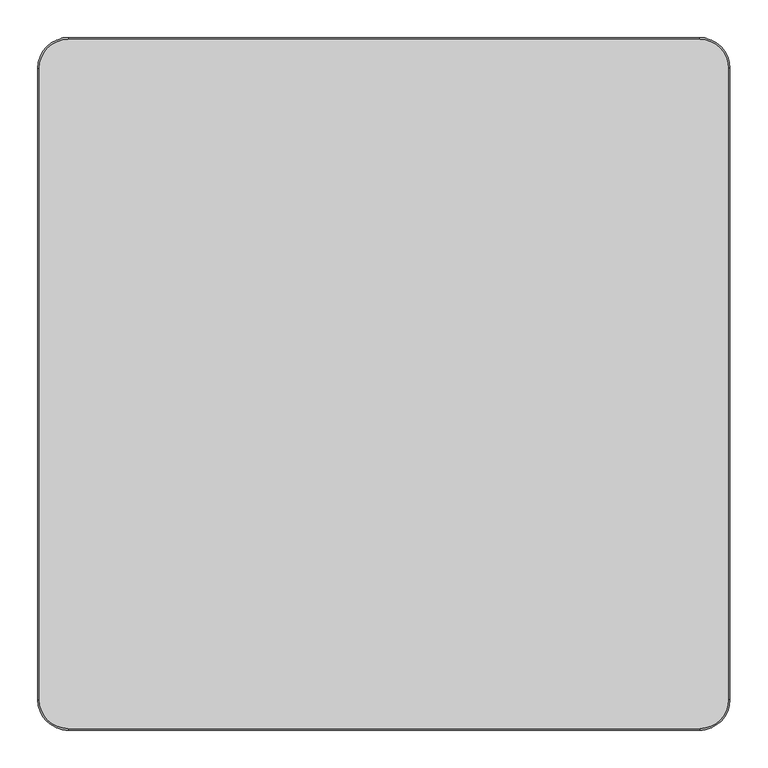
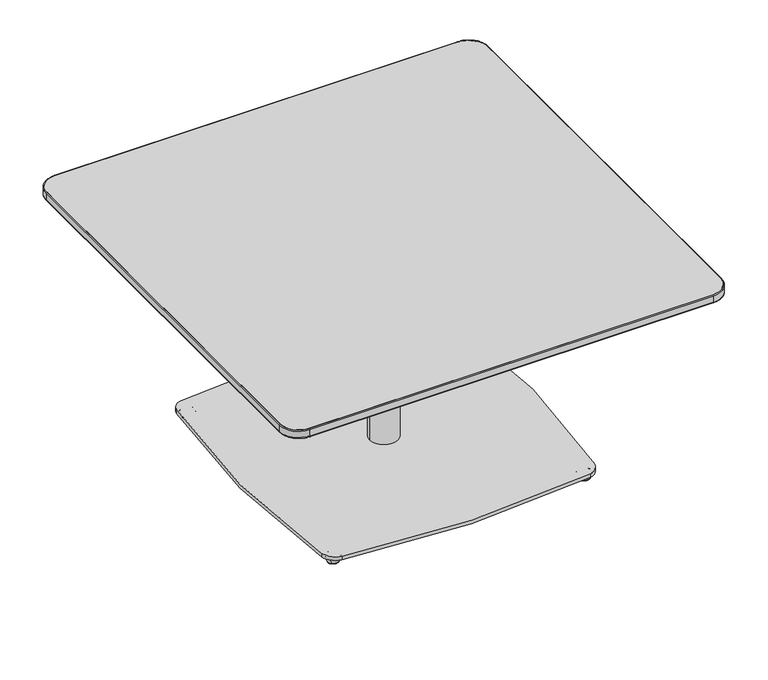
"""IFC4 building model written with IfcOpenShell, lengths in millimetres: furniture geometry, Coalesse_AM_Table_Occasional_Montara650Table_Square : 36D x 36W."""

from ifc_helpers import new_model, si_unit, point, frame, frame_2d, origin, place, context, project, spatial, polyline, circle_curve, ellipse_curve, trimmed, segment, composite_curve, outline, extrude, source, transform, mapped, element, save
from ifc_brep_helpers import plane_surface, cylinder_surface, revolved_surface, spline_surface, advanced_brep


def furniture_6edd4ddf(model_context):
    return source(origin(), model_context, "Body", "SolidModel", [
        advanced_brep(
        [(252.2843813, 244.9990703, 0.0), (266.9696661, 259.6843552, 0.0), (259.6270237, 252.3417127, 0.0), (251.7378791, 244.4525682, 0.5718943), (267.5161683, 260.2308573, 0.5718943), (249.43878, 242.1534691, 11.2068005), (269.8152674, 262.5299564, 11.2068005), (249.8538008, 242.5684899, 11.9999882), (269.4002466, 262.1149356, 11.9999882), (259.6270237, 252.3417127, 11.9999882)],
        [
            (0, 1, circle_curve(frame((259.6270237, 252.3417127, 0.0), z_axis=(0.0, 0.0, -1.0), x_axis=(0.7071067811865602, 0.7071067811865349, 0.0)), 10.3840645)),
            (1, 2),
            (2, 0),
            (1, 0, circle_curve(frame((259.6270237, 252.3417127, 0.0), z_axis=(0.0, 0.0, -1.0), x_axis=(0.7071067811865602, 0.7071067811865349, 0.0)), 10.3840645)),
            (3, 4, circle_curve(frame((259.6270237, 252.3417127, 0.5718943), z_axis=(0.0, 0.0, -1.0), x_axis=(0.7071067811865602, 0.7071067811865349, 0.0)), 11.1569353)),
            (4, 1, circle_curve(frame((266.9696661, 259.6843552, 0.8081846), z_axis=(-0.7071067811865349, 0.7071067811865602, 0.0), x_axis=(0.7071067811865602, 0.7071067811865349, 0.0)), 0.8081846)),
            (0, 3, circle_curve(frame((252.2843813, 244.9990703, 0.8081846), z_axis=(-0.7071067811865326, 0.7071067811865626, 0.0), x_axis=(-0.7071067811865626, -0.7071067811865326, 0.0)), 0.8081846)),
            (4, 3, circle_curve(frame((259.6270237, 252.3417127, 0.5718943), z_axis=(0.0, 0.0, -1.0), x_axis=(0.7071067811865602, 0.7071067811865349, 0.0)), 11.1569353)),
            (5, 6, circle_curve(frame((259.6270237, 252.3417127, 11.2068005), z_axis=(0.0, 0.0, -1.0), x_axis=(0.7071067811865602, 0.7071067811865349, 0.0)), 14.4083524)),
            (6, 4),
            (3, 5),
            (6, 5, circle_curve(frame((259.6270237, 252.3417127, 11.2068005), z_axis=(0.0, 0.0, -1.0), x_axis=(0.7071067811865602, 0.7071067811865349, 0.0)), 14.4083524)),
            (7, 8, circle_curve(frame((259.6270237, 252.3417127, 11.9999882), z_axis=(0.0, 0.0, -1.0), x_axis=(0.7071067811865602, 0.7071067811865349, 0.0)), 13.8214243)),
            (8, 6, circle_curve(frame((269.4002466, 262.1149356, 11.3862424), z_axis=(-0.7071067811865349, 0.7071067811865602, 0.0), x_axis=(0.7071067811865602, 0.7071067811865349, 0.0)), 0.6137458)),
            (5, 7, circle_curve(frame((249.8538008, 242.5684899, 11.3862424), z_axis=(-0.7071067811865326, 0.7071067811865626, 0.0), x_axis=(-0.7071067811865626, -0.7071067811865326, 0.0)), 0.6137458)),
            (8, 7, circle_curve(frame((259.6270237, 252.3417127, 11.9999882), z_axis=(0.0, 0.0, -1.0), x_axis=(0.7071067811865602, 0.7071067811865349, 0.0)), 13.8214243)),
            (9, 8),
            (7, 9),
        ],
        [
            plane_surface(frame((259.6270237, 252.3417127, 0.0), z_axis=(0.0, 0.0, -1.0000000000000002), x_axis=(0.7071067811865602, 0.7071067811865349, 0.0))),
            revolved_surface(trimmed(ellipse_curve(frame((266.9696661, 259.6843552, 0.8081846), z_axis=(0.7071067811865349, -0.7071067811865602, 0.0), x_axis=(0.7071067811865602, 0.7071067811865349, 0.0)), 0.8081846, 0.8081846), [point((266.9696661, 259.6843552, 0.0))], [point((267.5161683, 260.2308573, 0.5718943))], True, "CARTESIAN"), (259.6270237, 252.3417127, 12.2086845), (0.0, 0.0, 1.0)),
            revolved_surface(polyline([(267.5161683, 260.2308573, 0.5718943), (269.8152674, 262.5299564, 11.2068005)]), (259.6270237, 252.3417127, 12.2086845), (0.0, 0.0, 1.0)),
            revolved_surface(trimmed(ellipse_curve(frame((269.4002466, 262.1149356, 11.3862424), z_axis=(0.7071067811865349, -0.7071067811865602, 0.0), x_axis=(0.7071067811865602, 0.7071067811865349, 0.0)), 0.6137458, 0.6137458), [point((269.8152674, 262.5299564, 11.2068005))], [point((269.4002466, 262.1149356, 11.9999882))], True, "CARTESIAN"), (259.6270237, 252.3417127, 12.2086845), (0.0, 0.0, 1.0)),
            plane_surface(frame((259.6270237, 252.3417127, 11.9999882), z_axis=(0.0, 0.0, 1.0000000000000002), x_axis=(0.7071067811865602, 0.7071067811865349, 0.0))),
        ],
        [
            (0, [[1, 2, 3]]),
            (0, [[4, -3, -2]]),
            (1, [[5, 6, -1, 7]]),
            (1, [[8, -7, -4, -6]]),
            (2, [[9, 10, -5, 11]]),
            (2, [[12, -11, -8, -10]]),
            (3, [[13, 14, -9, 15]]),
            (3, [[16, -15, -12, -14]]),
            (4, [[17, -13, 18]]),
            (4, [[-18, -16, -17]]),
        ],
    ),
        advanced_brep(
        [(259.6270237, -268.2167127, 0.0), (266.9696661, -275.5593552, 0.0), (252.2843813, -260.8740703, 0.0), (267.5161683, -276.1058573, 0.5718943), (251.7378791, -260.3275682, 0.5718943), (269.8152674, -278.4049564, 11.2068005), (249.43878, -258.0284691, 11.2068005), (269.4002466, -277.9899356, 11.9999882), (249.8538008, -258.4434899, 11.9999882), (259.6270237, -268.2167127, 11.9999882)],
        [
            (0, 1),
            (1, 2, circle_curve(frame((259.6270237, -268.2167127, 0.0), z_axis=(0.0, 0.0, -1.0), x_axis=(0.7071067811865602, -0.7071067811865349, 0.0)), 10.3840645)),
            (2, 0),
            (2, 1, circle_curve(frame((259.6270237, -268.2167127, 0.0), z_axis=(0.0, 0.0, -1.0), x_axis=(0.7071067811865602, -0.7071067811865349, 0.0)), 10.3840645)),
            (1, 3, circle_curve(frame((266.9696661, -275.5593552, 0.8081846), z_axis=(-0.7071067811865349, -0.7071067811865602, 0.0), x_axis=(0.7071067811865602, -0.7071067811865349, 0.0)), 0.8081846)),
            (3, 4, circle_curve(frame((259.6270237, -268.2167127, 0.5718943), z_axis=(0.0, 0.0, -1.0), x_axis=(0.7071067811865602, -0.7071067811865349, 0.0)), 11.1569353)),
            (4, 2, circle_curve(frame((252.2843813, -260.8740703, 0.8081846), z_axis=(-0.7071067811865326, -0.7071067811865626, 0.0), x_axis=(-0.7071067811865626, 0.7071067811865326, 0.0)), 0.8081846)),
            (4, 3, circle_curve(frame((259.6270237, -268.2167127, 0.5718943), z_axis=(0.0, 0.0, -1.0), x_axis=(0.7071067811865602, -0.7071067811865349, 0.0)), 11.1569353)),
            (3, 5),
            (5, 6, circle_curve(frame((259.6270237, -268.2167127, 11.2068005), z_axis=(0.0, 0.0, -1.0), x_axis=(0.7071067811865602, -0.7071067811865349, 0.0)), 14.4083524)),
            (6, 4),
            (6, 5, circle_curve(frame((259.6270237, -268.2167127, 11.2068005), z_axis=(0.0, 0.0, -1.0), x_axis=(0.7071067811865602, -0.7071067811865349, 0.0)), 14.4083524)),
            (5, 7, circle_curve(frame((269.4002466, -277.9899356, 11.3862424), z_axis=(-0.7071067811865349, -0.7071067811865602, 0.0), x_axis=(0.7071067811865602, -0.7071067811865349, 0.0)), 0.6137458)),
            (7, 8, circle_curve(frame((259.6270237, -268.2167127, 11.9999882), z_axis=(0.0, 0.0, -1.0), x_axis=(0.7071067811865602, -0.7071067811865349, 0.0)), 13.8214243)),
            (8, 6, circle_curve(frame((249.8538008, -258.4434899, 11.3862424), z_axis=(-0.7071067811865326, -0.7071067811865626, 0.0), x_axis=(-0.7071067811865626, 0.7071067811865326, 0.0)), 0.6137458)),
            (8, 7, circle_curve(frame((259.6270237, -268.2167127, 11.9999882), z_axis=(0.0, 0.0, -1.0), x_axis=(0.7071067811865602, -0.7071067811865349, 0.0)), 13.8214243)),
            (7, 9),
            (9, 8),
        ],
        [
            plane_surface(frame((259.6270237, -268.2167127, 0.0), z_axis=(0.0, 0.0, -1.0000000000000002), x_axis=(0.7071067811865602, -0.7071067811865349, 0.0))),
            revolved_surface(trimmed(ellipse_curve(frame((266.9696661, -275.5593552, 0.8081846), z_axis=(0.7071067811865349, 0.7071067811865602, 0.0), x_axis=(0.7071067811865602, -0.7071067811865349, 0.0)), 0.8081846, 0.8081846), [point((267.5161683, -276.1058573, 0.5718943))], [point((266.9696661, -275.5593552, 0.0))], True, "CARTESIAN"), (259.6270237, -268.2167127, 12.2086845), (0.0, 0.0, -1.0)),
            revolved_surface(polyline([(269.8152674, -278.4049564, 11.2068005), (267.5161683, -276.1058573, 0.5718943)]), (259.6270237, -268.2167127, 12.2086845), (0.0, 0.0, -1.0)),
            revolved_surface(trimmed(ellipse_curve(frame((269.4002466, -277.9899356, 11.3862424), z_axis=(0.7071067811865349, 0.7071067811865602, 0.0), x_axis=(0.7071067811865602, -0.7071067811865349, 0.0)), 0.6137458, 0.6137458), [point((269.4002466, -277.9899356, 11.9999882))], [point((269.8152674, -278.4049564, 11.2068005))], True, "CARTESIAN"), (259.6270237, -268.2167127, 12.2086845), (0.0, 0.0, -1.0)),
            plane_surface(frame((259.6270237, -268.2167127, 11.9999882), z_axis=(0.0, 0.0, 1.0000000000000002), x_axis=(0.7071067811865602, -0.7071067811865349, 0.0))),
        ],
        [
            (0, [[1, 2, 3]]),
            (0, [[-3, 4, -1]]),
            (1, [[-2, 5, 6, 7]]),
            (1, [[-4, -7, 8, -5]]),
            (2, [[-6, 9, 10, 11]]),
            (2, [[-8, -11, 12, -9]]),
            (3, [[-10, 13, 14, 15]]),
            (3, [[-12, -15, 16, -13]]),
            (4, [[-14, 17, 18]]),
            (4, [[-16, -18, -17]]),
        ],
    ),
        extrude(outline(composite_curve([segment(trimmed(circle_curve(frame_2d((252.4620101, 244.7741595)), 31.75), [point((257.2212429, 276.1654354))], [point((283.8374336, 249.6368029))], False, "CARTESIAN"), True, "CONTINUOUS"), segment(trimmed(circle_curve(frame_2d((-1338.8141764, -1.8458925)), 1642.0236885), [point((283.8374336, 249.6368029))], [point((281.5966066, -267.3843791))], False, "CARTESIAN"), True, "CONTINUOUS"), segment(trimmed(circle_curve(frame_2d((256.5309305, -263.2768394)), 25.4), [point((281.5966066, -267.3843791))], [point((260.3854879, -288.3826631))], False, "CARTESIAN"), True, "CONTINUOUS"), segment(trimmed(circle_curve(frame_2d((1.8210899, 1395.720493)), 1703.8365498), [point((260.3854879, -288.3826631))], [point((-253.486505, -288.8794656))], False, "CARTESIAN"), True, "CONTINUOUS"), segment(trimmed(circle_curve(frame_2d((-248.7289969, -257.4879282)), 31.75), [point((-253.486505, -288.8794656))], [point((-280.1193859, -262.2530073))], False, "CARTESIAN"), True, "CONTINUOUS"), segment(trimmed(circle_curve(frame_2d((1447.4963883, 5.89e-05)), 1747.4074894), [point((-280.1193859, -262.2530073))], [point((-281.3896101, 253.7442979))], False, "CARTESIAN"), True, "CONTINUOUS"), segment(trimmed(circle_curve(frame_2d((-256.2588351, 250.0559175)), 25.4), [point((-281.3896101, 253.7442979))], [point((-260.1643924, 275.1538581))], False, "CARTESIAN"), True, "CONTINUOUS"), segment(trimmed(circle_curve(frame_2d((1.8210899, -1408.420493)), 1703.8365498), [point((-260.1643924, 275.1538581))], [point((257.2212429, 276.1654354))], False, "CARTESIAN"), True, "CONTINUOUS")], self_intersect=False)), frame((0.0, 0.0, 11.9999882), z_axis=(0.0, 0.0, 1.0), x_axis=(1.0, 0.0, 0.0)), (0.0, 0.0, 1.0), 8.0000083),
        advanced_brep(
        [(-259.6270237, 252.3417127, 0.0), (-266.9696661, 259.6843552, 0.0), (-252.2843813, 244.9990703, 0.0), (-267.5161683, 260.2308573, 0.5718943), (-251.7378791, 244.4525682, 0.5718943), (-269.8152674, 262.5299564, 11.2068005), (-249.43878, 242.1534691, 11.2068005), (-269.4002466, 262.1149356, 11.9999882), (-249.8538008, 242.5684899, 11.9999882), (-259.6270237, 252.3417127, 11.9999882)],
        [
            (0, 1),
            (1, 2, circle_curve(frame((-259.6270237, 252.3417127, 0.0), z_axis=(0.0, 0.0, -1.0), x_axis=(-0.7071067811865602, 0.7071067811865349, 0.0)), 10.3840645)),
            (2, 0),
            (2, 1, circle_curve(frame((-259.6270237, 252.3417127, 0.0), z_axis=(0.0, 0.0, -1.0), x_axis=(-0.7071067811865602, 0.7071067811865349, 0.0)), 10.3840645)),
            (1, 3, circle_curve(frame((-266.9696661, 259.6843552, 0.8081846), z_axis=(0.7071067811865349, 0.7071067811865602, 0.0), x_axis=(-0.7071067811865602, 0.7071067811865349, 0.0)), 0.8081846)),
            (3, 4, circle_curve(frame((-259.6270237, 252.3417127, 0.5718943), z_axis=(0.0, 0.0, -1.0), x_axis=(-0.7071067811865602, 0.7071067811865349, 0.0)), 11.1569353)),
            (4, 2, circle_curve(frame((-252.2843813, 244.9990703, 0.8081846), z_axis=(0.7071067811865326, 0.7071067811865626, 0.0), x_axis=(0.7071067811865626, -0.7071067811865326, 0.0)), 0.8081846)),
            (4, 3, circle_curve(frame((-259.6270237, 252.3417127, 0.5718943), z_axis=(0.0, 0.0, -1.0), x_axis=(-0.7071067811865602, 0.7071067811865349, 0.0)), 11.1569353)),
            (3, 5),
            (5, 6, circle_curve(frame((-259.6270237, 252.3417127, 11.2068005), z_axis=(0.0, 0.0, -1.0), x_axis=(-0.7071067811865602, 0.7071067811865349, 0.0)), 14.4083524)),
            (6, 4),
            (6, 5, circle_curve(frame((-259.6270237, 252.3417127, 11.2068005), z_axis=(0.0, 0.0, -1.0), x_axis=(-0.7071067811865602, 0.7071067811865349, 0.0)), 14.4083524)),
            (5, 7, circle_curve(frame((-269.4002466, 262.1149356, 11.3862424), z_axis=(0.7071067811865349, 0.7071067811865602, 0.0), x_axis=(-0.7071067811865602, 0.7071067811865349, 0.0)), 0.6137458)),
            (7, 8, circle_curve(frame((-259.6270237, 252.3417127, 11.9999882), z_axis=(0.0, 0.0, -1.0), x_axis=(-0.7071067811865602, 0.7071067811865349, 0.0)), 13.8214243)),
            (8, 6, circle_curve(frame((-249.8538008, 242.5684899, 11.3862424), z_axis=(0.7071067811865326, 0.7071067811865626, 0.0), x_axis=(0.7071067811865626, -0.7071067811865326, 0.0)), 0.6137458)),
            (8, 7, circle_curve(frame((-259.6270237, 252.3417127, 11.9999882), z_axis=(0.0, 0.0, -1.0), x_axis=(-0.7071067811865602, 0.7071067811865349, 0.0)), 13.8214243)),
            (7, 9),
            (9, 8),
        ],
        [
            plane_surface(frame((-259.6270237, 252.3417127, 0.0), z_axis=(0.0, 0.0, -1.0000000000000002), x_axis=(-0.7071067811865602, 0.7071067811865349, 0.0))),
            revolved_surface(trimmed(ellipse_curve(frame((-266.9696661, 259.6843552, 0.8081846), z_axis=(-0.7071067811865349, -0.7071067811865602, 0.0), x_axis=(-0.7071067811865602, 0.7071067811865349, 0.0)), 0.8081846, 0.8081846), [point((-267.5161683, 260.2308573, 0.5718943))], [point((-266.9696661, 259.6843552, 0.0))], True, "CARTESIAN"), (-259.6270237, 252.3417127, 12.2086845), (0.0, 0.0, -1.0)),
            revolved_surface(polyline([(-269.8152674, 262.5299564, 11.2068005), (-267.5161683, 260.2308573, 0.5718943)]), (-259.6270237, 252.3417127, 12.2086845), (0.0, 0.0, -1.0)),
            revolved_surface(trimmed(ellipse_curve(frame((-269.4002466, 262.1149356, 11.3862424), z_axis=(-0.7071067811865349, -0.7071067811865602, 0.0), x_axis=(-0.7071067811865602, 0.7071067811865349, 0.0)), 0.6137458, 0.6137458), [point((-269.4002466, 262.1149356, 11.9999882))], [point((-269.8152674, 262.5299564, 11.2068005))], True, "CARTESIAN"), (-259.6270237, 252.3417127, 12.2086845), (0.0, 0.0, -1.0)),
            plane_surface(frame((-259.6270237, 252.3417127, 11.9999882), z_axis=(0.0, 0.0, 1.0000000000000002), x_axis=(-0.7071067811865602, 0.7071067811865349, 0.0))),
        ],
        [
            (0, [[1, 2, 3]]),
            (0, [[-3, 4, -1]]),
            (1, [[-2, 5, 6, 7]]),
            (1, [[-4, -7, 8, -5]]),
            (2, [[-6, 9, 10, 11]]),
            (2, [[-8, -11, 12, -9]]),
            (3, [[-10, 13, 14, 15]]),
            (3, [[-12, -15, 16, -13]]),
            (4, [[-14, 17, 18]]),
            (4, [[-16, -18, -17]]),
        ],
    ),
        advanced_brep(
        [(-252.2843813, -260.8740703, 0.0), (-266.9696661, -275.5593552, 0.0), (-259.6270237, -268.2167127, 0.0), (-251.7378791, -260.3275682, 0.5718943), (-267.5161683, -276.1058573, 0.5718943), (-249.43878, -258.0284691, 11.2068005), (-269.8152674, -278.4049564, 11.2068005), (-249.8538008, -258.4434899, 11.9999882), (-269.4002466, -277.9899356, 11.9999882), (-259.6270237, -268.2167127, 11.9999882)],
        [
            (0, 1, circle_curve(frame((-259.6270237, -268.2167127, 0.0), z_axis=(0.0, 0.0, -1.0), x_axis=(-0.7071067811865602, -0.7071067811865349, 0.0)), 10.3840645)),
            (1, 2),
            (2, 0),
            (1, 0, circle_curve(frame((-259.6270237, -268.2167127, 0.0), z_axis=(0.0, 0.0, -1.0), x_axis=(-0.7071067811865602, -0.7071067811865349, 0.0)), 10.3840645)),
            (3, 4, circle_curve(frame((-259.6270237, -268.2167127, 0.5718943), z_axis=(0.0, 0.0, -1.0), x_axis=(-0.7071067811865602, -0.7071067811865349, 0.0)), 11.1569353)),
            (4, 1, circle_curve(frame((-266.9696661, -275.5593552, 0.8081846), z_axis=(0.7071067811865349, -0.7071067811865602, 0.0), x_axis=(-0.7071067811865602, -0.7071067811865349, 0.0)), 0.8081846)),
            (0, 3, circle_curve(frame((-252.2843813, -260.8740703, 0.8081846), z_axis=(0.7071067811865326, -0.7071067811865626, 0.0), x_axis=(0.7071067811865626, 0.7071067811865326, 0.0)), 0.8081846)),
            (4, 3, circle_curve(frame((-259.6270237, -268.2167127, 0.5718943), z_axis=(0.0, 0.0, -1.0), x_axis=(-0.7071067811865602, -0.7071067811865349, 0.0)), 11.1569353)),
            (5, 6, circle_curve(frame((-259.6270237, -268.2167127, 11.2068005), z_axis=(0.0, 0.0, -1.0), x_axis=(-0.7071067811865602, -0.7071067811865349, 0.0)), 14.4083524)),
            (6, 4),
            (3, 5),
            (6, 5, circle_curve(frame((-259.6270237, -268.2167127, 11.2068005), z_axis=(0.0, 0.0, -1.0), x_axis=(-0.7071067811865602, -0.7071067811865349, 0.0)), 14.4083524)),
            (7, 8, circle_curve(frame((-259.6270237, -268.2167127, 11.9999882), z_axis=(0.0, 0.0, -1.0), x_axis=(-0.7071067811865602, -0.7071067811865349, 0.0)), 13.8214243)),
            (8, 6, circle_curve(frame((-269.4002466, -277.9899356, 11.3862424), z_axis=(0.7071067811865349, -0.7071067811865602, 0.0), x_axis=(-0.7071067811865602, -0.7071067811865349, 0.0)), 0.6137458)),
            (5, 7, circle_curve(frame((-249.8538008, -258.4434899, 11.3862424), z_axis=(0.7071067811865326, -0.7071067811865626, 0.0), x_axis=(0.7071067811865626, 0.7071067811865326, 0.0)), 0.6137458)),
            (8, 7, circle_curve(frame((-259.6270237, -268.2167127, 11.9999882), z_axis=(0.0, 0.0, -1.0), x_axis=(-0.7071067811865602, -0.7071067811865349, 0.0)), 13.8214243)),
            (9, 8),
            (7, 9),
        ],
        [
            plane_surface(frame((-259.6270237, -268.2167127, 0.0), z_axis=(0.0, 0.0, -1.0000000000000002), x_axis=(-0.7071067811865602, -0.7071067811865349, 0.0))),
            revolved_surface(trimmed(ellipse_curve(frame((-266.9696661, -275.5593552, 0.8081846), z_axis=(-0.7071067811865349, 0.7071067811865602, 0.0), x_axis=(-0.7071067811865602, -0.7071067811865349, 0.0)), 0.8081846, 0.8081846), [point((-266.9696661, -275.5593552, 0.0))], [point((-267.5161683, -276.1058573, 0.5718943))], True, "CARTESIAN"), (-259.6270237, -268.2167127, 12.2086845), (0.0, 0.0, 1.0)),
            revolved_surface(polyline([(-267.5161683, -276.1058573, 0.5718943), (-269.8152674, -278.4049564, 11.2068005)]), (-259.6270237, -268.2167127, 12.2086845), (0.0, 0.0, 1.0)),
            revolved_surface(trimmed(ellipse_curve(frame((-269.4002466, -277.9899356, 11.3862424), z_axis=(-0.7071067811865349, 0.7071067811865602, 0.0), x_axis=(-0.7071067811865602, -0.7071067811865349, 0.0)), 0.6137458, 0.6137458), [point((-269.8152674, -278.4049564, 11.2068005))], [point((-269.4002466, -277.9899356, 11.9999882))], True, "CARTESIAN"), (-259.6270237, -268.2167127, 12.2086845), (0.0, 0.0, 1.0)),
            plane_surface(frame((-259.6270237, -268.2167127, 11.9999882), z_axis=(0.0, 0.0, 1.0000000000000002), x_axis=(-0.7071067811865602, -0.7071067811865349, 0.0))),
        ],
        [
            (0, [[1, 2, 3]]),
            (0, [[4, -3, -2]]),
            (1, [[5, 6, -1, 7]]),
            (1, [[8, -7, -4, -6]]),
            (2, [[9, 10, -5, 11]]),
            (2, [[12, -11, -8, -10]]),
            (3, [[13, 14, -9, 15]]),
            (3, [[16, -15, -12, -14]]),
            (4, [[17, -13, 18]]),
            (4, [[-18, -16, -17]]),
        ],
    ),
        advanced_brep(
        [(-259.4526224, 252.1653521, 0.0), (-266.7952648, 259.5079945, 0.0), (-252.1099799, 244.8227097, 0.0), (-267.3417669, 260.0544967, 0.5718943), (-251.5634778, 244.2762075, 0.5718943), (-269.640866, 262.3535958, 11.2068005), (-249.2643787, 241.9771084, 11.2068005), (-269.2258452, 261.938575, 11.9999882), (-249.6793995, 242.3921292, 11.9999882), (-259.4526224, 252.1653521, 11.9999882)],
        [
            (0, 1),
            (1, 2, circle_curve(frame((-259.4526224, 252.1653521, 0.0), z_axis=(0.0, 0.0, -1.0), x_axis=(-0.7071067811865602, 0.7071067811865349, 0.0)), 10.3840645)),
            (2, 0),
            (2, 1, circle_curve(frame((-259.4526224, 252.1653521, 0.0), z_axis=(0.0, 0.0, -1.0), x_axis=(-0.7071067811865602, 0.7071067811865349, 0.0)), 10.3840645)),
            (1, 3, circle_curve(frame((-266.7952648, 259.5079945, 0.8081846), z_axis=(0.7071067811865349, 0.7071067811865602, 0.0), x_axis=(-0.7071067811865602, 0.7071067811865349, 0.0)), 0.8081846)),
            (3, 4, circle_curve(frame((-259.4526224, 252.1653521, 0.5718943), z_axis=(0.0, 0.0, -1.0), x_axis=(-0.7071067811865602, 0.7071067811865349, 0.0)), 11.1569353)),
            (4, 2, circle_curve(frame((-252.1099799, 244.8227097, 0.8081846), z_axis=(0.7071067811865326, 0.7071067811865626, 0.0), x_axis=(0.7071067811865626, -0.7071067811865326, 0.0)), 0.8081846)),
            (4, 3, circle_curve(frame((-259.4526224, 252.1653521, 0.5718943), z_axis=(0.0, 0.0, -1.0), x_axis=(-0.7071067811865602, 0.7071067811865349, 0.0)), 11.1569353)),
            (3, 5),
            (5, 6, circle_curve(frame((-259.4526224, 252.1653521, 11.2068005), z_axis=(0.0, 0.0, -1.0), x_axis=(-0.7071067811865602, 0.7071067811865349, 0.0)), 14.4083524)),
            (6, 4),
            (6, 5, circle_curve(frame((-259.4526224, 252.1653521, 11.2068005), z_axis=(0.0, 0.0, -1.0), x_axis=(-0.7071067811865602, 0.7071067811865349, 0.0)), 14.4083524)),
            (5, 7, circle_curve(frame((-269.2258452, 261.938575, 11.3862424), z_axis=(0.7071067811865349, 0.7071067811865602, 0.0), x_axis=(-0.7071067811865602, 0.7071067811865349, 0.0)), 0.6137458)),
            (7, 8, circle_curve(frame((-259.4526224, 252.1653521, 11.9999882), z_axis=(0.0, 0.0, -1.0), x_axis=(-0.7071067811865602, 0.7071067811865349, 0.0)), 13.8214243)),
            (8, 6, circle_curve(frame((-249.6793995, 242.3921292, 11.3862424), z_axis=(0.7071067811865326, 0.7071067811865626, 0.0), x_axis=(0.7071067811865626, -0.7071067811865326, 0.0)), 0.6137458)),
            (8, 7, circle_curve(frame((-259.4526224, 252.1653521, 11.9999882), z_axis=(0.0, 0.0, -1.0), x_axis=(-0.7071067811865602, 0.7071067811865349, 0.0)), 13.8214243)),
            (7, 9),
            (9, 8),
        ],
        [
            plane_surface(frame((-259.4526224, 252.1653521, 0.0), z_axis=(0.0, 0.0, -1.0000000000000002), x_axis=(-0.7071067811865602, 0.7071067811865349, 0.0))),
            revolved_surface(trimmed(ellipse_curve(frame((-266.7952648, 259.5079945, 0.8081846), z_axis=(-0.7071067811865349, -0.7071067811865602, 0.0), x_axis=(-0.7071067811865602, 0.7071067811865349, 0.0)), 0.8081846, 0.8081846), [point((-267.3417669, 260.0544967, 0.5718943))], [point((-266.7952648, 259.5079945, 0.0))], True, "CARTESIAN"), (-259.4526224, 252.1653521, 12.2086845), (0.0, 0.0, -1.0)),
            revolved_surface(polyline([(-269.640866, 262.3535958, 11.2068005), (-267.3417669, 260.0544967, 0.5718943)]), (-259.4526224, 252.1653521, 12.2086845), (0.0, 0.0, -1.0)),
            revolved_surface(trimmed(ellipse_curve(frame((-269.2258452, 261.938575, 11.3862424), z_axis=(-0.7071067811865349, -0.7071067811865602, 0.0), x_axis=(-0.7071067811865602, 0.7071067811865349, 0.0)), 0.6137458, 0.6137458), [point((-269.2258452, 261.938575, 11.9999882))], [point((-269.640866, 262.3535958, 11.2068005))], True, "CARTESIAN"), (-259.4526224, 252.1653521, 12.2086845), (0.0, 0.0, -1.0)),
            plane_surface(frame((-259.4526224, 252.1653521, 11.9999882), z_axis=(0.0, 0.0, 1.0000000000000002), x_axis=(-0.7071067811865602, 0.7071067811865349, 0.0))),
        ],
        [
            (0, [[1, 2, 3]]),
            (0, [[-3, 4, -1]]),
            (1, [[-2, 5, 6, 7]]),
            (1, [[-4, -7, 8, -5]]),
            (2, [[-6, 9, 10, 11]]),
            (2, [[-8, -11, 12, -9]]),
            (3, [[-10, 13, 14, 15]]),
            (3, [[-12, -15, 16, -13]]),
            (4, [[-14, 17, 18]]),
            (4, [[-16, -18, -17]]),
        ],
    ),
        advanced_brep(
        [(392.2626362, 392.2635082, 427.230027), (392.2626362, -392.2635082, 427.230027), (-392.2626362, -392.2635082, 427.230027), (-392.2626362, 392.2635082, 427.230027), (416.988625, 455.168, 439.495891), (-416.988625, 455.168, 439.495891), (-455.088625, 417.068, 439.495891), (-455.088625, -417.068, 439.495891), (-416.988625, -455.168, 439.495891), (416.988625, -455.168, 439.495891), (455.088625, -417.068, 439.495891), (455.088625, 417.068, 439.495891)],
        [
            (0, 1),
            (1, 2),
            (2, 3),
            (3, 0),
            (4, 5),
            (5, 6, circle_curve(frame((-416.988625, 417.068, 439.495891), z_axis=(0.0, 0.0, 1.0), x_axis=(1.0, 0.0, 0.0)), 38.1)),
            (6, 7),
            (7, 8, circle_curve(frame((-416.988625, -417.068, 439.495891), z_axis=(0.0, 0.0, 1.0), x_axis=(1.0, 0.0, 0.0)), 38.1)),
            (8, 9),
            (9, 10, circle_curve(frame((416.988625, -417.068, 439.495891), z_axis=(0.0, 0.0, 1.0), x_axis=(1.0, 0.0, 0.0)), 38.1)),
            (10, 11),
            (11, 4, circle_curve(frame((416.988625, 417.068, 439.495891), z_axis=(0.0, 0.0, 1.0), x_axis=(1.0, 0.0, 0.0)), 38.1)),
            (11, 0),
            (0, 4),
            (10, 1),
            (9, 1),
            (8, 2),
            (7, 2),
            (6, 3),
            (5, 3),
        ],
        [
            plane_surface(frame((0.0, 0.0, 427.230027), z_axis=(0.0, 0.0, -1.0), x_axis=(-1.0, 0.0, 0.0))),
            plane_surface(frame((0.0, 0.0, 439.495891), z_axis=(0.0, 0.0, 1.0), x_axis=(-1.0, 0.0, 0.0))),
            spline_surface(2, 1, [[(416.988625, 455.168, 439.495891), (392.2626362, 392.2635082, 427.230027)], [(455.08862500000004, 455.16800000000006, 439.495891), (392.2626362, 392.2635082, 427.230027)], [(455.088625, 417.068, 439.495891), (392.2626362, 392.2635082, 427.230027)]], [3, 3], [2, 2], [0.0, 1.0], [0.0, 1.0], weights=[[1.0, 1.0], [0.707106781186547, 0.707106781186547], [1.0, 1.0]]),
            plane_surface(frame((455.088625, 0.0, 439.495891), z_axis=(0.191617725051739, 0.0, -0.9814696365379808), x_axis=(0.0, -1.0, 0.0))),
            spline_surface(2, 1, [[(455.088625, -417.068, 439.495891), (392.2626362, -392.2635082, 427.230027)], [(455.0886249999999, -455.16799999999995, 439.495891), (392.2626362, -392.2635082, 427.230027)], [(416.988625, -455.168, 439.495891), (392.2626362, -392.2635082, 427.230027)]], [3, 3], [2, 2], [0.0, 1.0], [0.0, 1.0], weights=[[1.0, 1.0], [0.7071067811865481, 0.7071067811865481], [1.0, 1.0]]),
            plane_surface(frame((0.0, -455.168, 439.495891), z_axis=(0.0, -0.1913873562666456, -0.9815145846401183), x_axis=(-1.0, 0.0, 0.0))),
            spline_surface(2, 1, [[(-416.988625, -455.168, 439.495891), (-392.2626362, -392.2635082, 427.230027)], [(-455.08862500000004, -455.16800000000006, 439.495891), (-392.2626362, -392.2635082, 427.230027)], [(-455.088625, -417.068, 439.495891), (-392.2626362, -392.2635082, 427.230027)]], [3, 3], [2, 2], [0.0, 1.0], [0.0, 1.0], weights=[[1.0, 1.0], [0.707106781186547, 0.707106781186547], [1.0, 1.0]]),
            plane_surface(frame((-455.088625, 0.0, 439.495891), z_axis=(-0.1916177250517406, 0.0, -0.9814696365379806), x_axis=(0.0, 1.0, 0.0))),
            spline_surface(2, 1, [[(-455.088625, 417.068, 439.495891), (-392.2626362, 392.2635082, 427.230027)], [(-455.0886249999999, 455.16799999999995, 439.495891), (-392.2626362, 392.2635082, 427.230027)], [(-416.988625, 455.168, 439.495891), (-392.2626362, 392.2635082, 427.230027)]], [3, 3], [2, 2], [0.0, 1.0], [0.0, 1.0], weights=[[1.0, 1.0], [0.7071067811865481, 0.7071067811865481], [1.0, 1.0]]),
            plane_surface(frame((0.0, 455.168, 439.495891), z_axis=(0.0, 0.1913873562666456, -0.9815145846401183), x_axis=(1.0, 0.0, 0.0))),
        ],
        [
            (0, [[1, 2, 3, 4]]),
            (1, [[5, 6, 7, 8, 9, 10, 11, 12]]),
            (2, [[-12, 13, 14]]),
            (3, [[-11, 15, -1, -13]]),
            (4, [[-10, 16, -15]]),
            (5, [[-9, 17, -2, -16]]),
            (6, [[-8, 18, -17]]),
            (7, [[-7, 19, -3, -18]]),
            (8, [[-6, 20, -19]]),
            (9, [[-5, -14, -4, -20]]),
        ],
    ),
        extrude(outline(composite_curve([segment(trimmed(circle_curve(frame_2d((416.988625, 417.068)), 38.1), [point((416.988625, 455.168))], [point((455.088625, 417.068))], False, "CARTESIAN"), True, "CONTINUOUS"), segment(polyline([(455.088625, 417.068), (455.088625, -417.068)]), True, "CONTINUOUS"), segment(trimmed(circle_curve(frame_2d((416.988625, -417.068)), 38.1), [point((455.088625, -417.068))], [point((416.988625, -455.168))], False, "CARTESIAN"), True, "CONTINUOUS"), segment(polyline([(416.988625, -455.168), (-416.988625, -455.168)]), True, "CONTINUOUS"), segment(trimmed(circle_curve(frame_2d((-416.988625, -417.068)), 38.1), [point((-416.988625, -455.168))], [point((-455.088625, -417.068))], False, "CARTESIAN"), True, "CONTINUOUS"), segment(polyline([(-455.088625, -417.068), (-455.088625, 417.068)]), True, "CONTINUOUS"), segment(trimmed(circle_curve(frame_2d((-416.988625, 417.068)), 38.1), [point((-455.088625, 417.068))], [point((-416.988625, 455.168))], False, "CARTESIAN"), True, "CONTINUOUS"), segment(polyline([(-416.988625, 455.168), (416.988625, 455.168)]), True, "CONTINUOUS")], self_intersect=False)), frame((0.0, 0.0, 439.495891), z_axis=(0.0, 0.0, 1.0), x_axis=(1.0, 0.0, 0.0)), (0.0, 0.0, 1.0), 17.704109),
        advanced_brep(
        [(-457.1644915, 417.068, 441.4278467), (-416.988625, 457.2438665, 441.4278467), (-416.988625, 455.168, 439.495891), (-455.088625, 417.068, 439.495891), (-457.1644915, 417.068, 455.1999283), (-416.988625, 457.2438665, 455.1999283), (-455.088625, 417.068, 457.2), (-416.988625, 455.168, 457.2), (-455.088625, -417.068, 439.495891), (-457.1644915, -417.068, 441.4278467), (-457.1644915, -417.068, 455.1999283), (-455.088625, -417.068, 457.2), (-416.988625, -457.2438665, 441.4278467), (-416.988625, -455.168, 439.495891), (-416.988625, -457.2438665, 455.1999283), (-416.988625, -455.168, 457.2), (416.988625, -455.168, 439.495891), (416.988625, -457.2438665, 441.4278467), (416.988625, -457.2438665, 455.1999283), (416.988625, -455.168, 457.2), (457.1644915, -417.068, 441.4278467), (455.088625, -417.068, 439.495891), (457.1644915, -417.068, 455.1999283), (455.088625, -417.068, 457.2), (455.088625, 417.068, 439.495891), (457.1644915, 417.068, 441.4278467), (457.1644915, 417.068, 455.1999283), (455.088625, 417.068, 457.2), (416.988625, 457.2438665, 441.4278467), (416.988625, 455.168, 439.495891), (416.988625, 457.2438665, 455.1999283), (416.988625, 455.168, 457.2)],
        [
            (0, 1, circle_curve(frame((-416.988625, 417.068, 441.4278467), z_axis=(0.0, 0.0, -1.0), x_axis=(0.0, 1.0, 0.0)), 40.1758665)),
            (1, 2, circle_curve(frame((-416.988625, 455.3069224, 441.4278467), z_axis=(-1.0, 0.0, 0.0), x_axis=(0.0, -1.0, 0.0)), 1.9369441)),
            (2, 3, circle_curve(frame((-416.988625, 417.068, 439.495891), z_axis=(0.0, 0.0, 1.0), x_axis=(0.0, 1.0, 0.0)), 38.1)),
            (3, 0, circle_curve(frame((-455.2275474, 417.068, 441.4278467), z_axis=(0.0, 1.0, 0.0), x_axis=(1.0, 0.0, 0.0)), 1.9369441)),
            (4, 5, circle_curve(frame((-416.988625, 417.068, 455.1999283), z_axis=(0.0, 0.0, -1.0), x_axis=(0.0, 1.0, 0.0)), 40.1758665)),
            (5, 1),
            (0, 4),
            (6, 7, circle_curve(frame((-416.988625, 417.068, 457.2), z_axis=(0.0, 0.0, -1.0), x_axis=(0.0, 1.0, 0.0)), 38.1)),
            (7, 5, circle_curve(frame((-416.988625, 455.2424111, 455.1999283), z_axis=(-1.0, 0.0, 0.0), x_axis=(0.0, -1.0, 0.0)), 2.0014554)),
            (4, 6, circle_curve(frame((-455.1630361, 417.068, 455.1999283), z_axis=(0.0, 1.0, 0.0), x_axis=(1.0, 0.0, 0.0)), 2.0014554)),
            (2, 7),
            (6, 3),
            (3, 8),
            (8, 9, circle_curve(frame((-455.2275474, -417.068, 441.4278467), z_axis=(0.0, 1.0, 0.0), x_axis=(1.0, 0.0, 0.0)), 1.9369441)),
            (9, 0),
            (9, 10),
            (10, 4),
            (10, 11, circle_curve(frame((-455.1630361, -417.068, 455.1999283), z_axis=(0.0, 1.0, 0.0), x_axis=(1.0, 0.0, 0.0)), 2.0014554)),
            (11, 6),
            (11, 8),
            (12, 9, circle_curve(frame((-416.988625, -417.068, 441.4278467), z_axis=(0.0, 0.0, -1.0), x_axis=(-1.0, 0.0, 0.0)), 40.1758665)),
            (8, 13, circle_curve(frame((-416.988625, -417.068, 439.495891), z_axis=(0.0, 0.0, 1.0), x_axis=(-1.0, 0.0, 0.0)), 38.1)),
            (13, 12, circle_curve(frame((-416.988625, -455.3069224, 441.4278467), z_axis=(-1.0, 0.0, 0.0), x_axis=(0.0, 1.0, 0.0)), 1.9369441)),
            (14, 10, circle_curve(frame((-416.988625, -417.068, 455.1999283), z_axis=(0.0, 0.0, -1.0), x_axis=(-1.0, 0.0, 0.0)), 40.1758665)),
            (12, 14),
            (15, 11, circle_curve(frame((-416.988625, -417.068, 457.2), z_axis=(0.0, 0.0, -1.0), x_axis=(-1.0, 0.0, 0.0)), 38.1)),
            (14, 15, circle_curve(frame((-416.988625, -455.2424111, 455.1999283), z_axis=(-1.0, 0.0, 0.0), x_axis=(0.0, 1.0, 0.0)), 2.0014554)),
            (15, 13),
            (13, 16),
            (16, 17, circle_curve(frame((416.988625, -455.3069224, 441.4278467), z_axis=(-1.0, 0.0, 0.0), x_axis=(0.0, 1.0, 0.0)), 1.9369441)),
            (17, 12),
            (17, 18),
            (18, 14),
            (18, 19, circle_curve(frame((416.988625, -455.2424111, 455.1999283), z_axis=(-1.0, 0.0, 0.0), x_axis=(0.0, 1.0, 0.0)), 2.0014554)),
            (19, 15),
            (19, 16),
            (20, 17, circle_curve(frame((416.988625, -417.068, 441.4278467), z_axis=(0.0, 0.0, -1.0), x_axis=(0.0, -1.0, 0.0)), 40.1758665)),
            (16, 21, circle_curve(frame((416.988625, -417.068, 439.495891), z_axis=(0.0, 0.0, 1.0), x_axis=(0.0, -1.0, 0.0)), 38.1)),
            (21, 20, circle_curve(frame((455.2275474, -417.068, 441.4278467), z_axis=(0.0, -1.0, 0.0), x_axis=(-1.0, 0.0, 0.0)), 1.9369441)),
            (22, 18, circle_curve(frame((416.988625, -417.068, 455.1999283), z_axis=(0.0, 0.0, -1.0), x_axis=(0.0, -1.0, 0.0)), 40.1758665)),
            (20, 22),
            (23, 19, circle_curve(frame((416.988625, -417.068, 457.2), z_axis=(0.0, 0.0, -1.0), x_axis=(0.0, -1.0, 0.0)), 38.1)),
            (22, 23, circle_curve(frame((455.1630361, -417.068, 455.1999283), z_axis=(0.0, -1.0, 0.0), x_axis=(-1.0, 0.0, 0.0)), 2.0014554)),
            (23, 21),
            (21, 24),
            (24, 25, circle_curve(frame((455.2275474, 417.068, 441.4278467), z_axis=(0.0, -1.0, 0.0), x_axis=(-1.0, 0.0, 0.0)), 1.9369441)),
            (25, 20),
            (25, 26),
            (26, 22),
            (26, 27, circle_curve(frame((455.1630361, 417.068, 455.1999283), z_axis=(0.0, -1.0, 0.0), x_axis=(-1.0, 0.0, 0.0)), 2.0014554)),
            (27, 23),
            (27, 24),
            (28, 25, circle_curve(frame((416.988625, 417.068, 441.4278467), z_axis=(0.0, 0.0, -1.0), x_axis=(1.0, 0.0, 0.0)), 40.1758665)),
            (24, 29, circle_curve(frame((416.988625, 417.068, 439.495891), z_axis=(0.0, 0.0, 1.0), x_axis=(1.0, 0.0, 0.0)), 38.1)),
            (29, 28, circle_curve(frame((416.988625, 455.3069224, 441.4278467), z_axis=(1.0, 0.0, 0.0), x_axis=(0.0, -1.0, 0.0)), 1.9369441)),
            (30, 26, circle_curve(frame((416.988625, 417.068, 455.1999283), z_axis=(0.0, 0.0, -1.0), x_axis=(1.0, 0.0, 0.0)), 40.1758665)),
            (28, 30),
            (31, 27, circle_curve(frame((416.988625, 417.068, 457.2), z_axis=(0.0, 0.0, -1.0), x_axis=(1.0, 0.0, 0.0)), 38.1)),
            (30, 31, circle_curve(frame((416.988625, 455.2424111, 455.1999283), z_axis=(1.0, 0.0, 0.0), x_axis=(0.0, -1.0, 0.0)), 2.0014554)),
            (31, 29),
            (29, 2),
            (1, 28),
            (5, 30),
            (7, 31),
        ],
        [
            revolved_surface(trimmed(ellipse_curve(frame((-416.988625, 455.3069224, 441.4278467), z_axis=(1.0, 0.0, 0.0), x_axis=(0.0, -1.0, 0.0)), 1.9369441, 1.9369441), [point((-416.988625, 455.168, 439.495891))], [point((-416.988625, 457.2438665, 441.4278467))], True, "CARTESIAN"), (-416.988625, 417.068, 0.0), (0.0, 0.0, 1.0)),
            cylinder_surface(frame((-416.988625, 417.068, 0.0), z_axis=(0.0, 0.0, 1.0), x_axis=(0.0, 1.0, 0.0)), 40.1758665),
            revolved_surface(trimmed(ellipse_curve(frame((-416.988625, 455.2424111, 455.1999283), z_axis=(1.0, 0.0, 0.0), x_axis=(0.0, -1.0, 0.0)), 2.0014554, 2.0014554), [point((-416.988625, 457.2438665, 455.1999283))], [point((-416.988625, 455.168, 457.2))], True, "CARTESIAN"), (-416.988625, 417.068, 0.0), (0.0, 0.0, 1.0)),
            revolved_surface(polyline([(-416.988625, 455.168, 457.2), (-416.988625, 455.168, 439.495891)]), (-416.988625, 417.068, 0.0), (0.0, 0.0, 1.0)),
            cylinder_surface(frame((-455.2275474, 417.068, 441.4278467), z_axis=(0.0, 1.0, 0.0), x_axis=(1.0, 0.0, 0.0)), 1.9369441),
            plane_surface(frame((-457.1644915, 417.068, 441.4278467), z_axis=(-1.0, 0.0, 0.0), x_axis=(0.0, -1.0, 0.0))),
            cylinder_surface(frame((-455.1630361, 417.068, 455.1999283), z_axis=(0.0, 1.0, 0.0), x_axis=(1.0, 0.0, 0.0)), 2.0014554),
            plane_surface(frame((-455.088625, 417.068, 457.2), z_axis=(1.0, 0.0, 0.0), x_axis=(0.0, -1.0, 0.0))),
            revolved_surface(trimmed(ellipse_curve(frame((-455.2275474, -417.068, 441.4278467), z_axis=(0.0, 1.0, 0.0), x_axis=(1.0, 0.0, 0.0)), 1.9369441, 1.9369441), [point((-455.088625, -417.068, 439.495891))], [point((-457.1644915, -417.068, 441.4278467))], True, "CARTESIAN"), (-416.988625, -417.068, 0.0), (0.0, 0.0, 1.0)),
            cylinder_surface(frame((-416.988625, -417.068, 0.0), z_axis=(0.0, 0.0, 1.0), x_axis=(-1.0, 0.0, 0.0)), 40.1758665),
            revolved_surface(trimmed(ellipse_curve(frame((-455.1630361, -417.068, 455.1999283), z_axis=(0.0, 1.0, 0.0), x_axis=(1.0, 0.0, 0.0)), 2.0014554, 2.0014554), [point((-457.1644915, -417.068, 455.1999283))], [point((-455.088625, -417.068, 457.2))], True, "CARTESIAN"), (-416.988625, -417.068, 0.0), (0.0, 0.0, 1.0)),
            revolved_surface(polyline([(-455.08862500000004, -417.068, 457.2), (-455.08862500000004, -417.068, 439.495891)]), (-416.988625, -417.068, 0.0), (0.0, 0.0, 1.0)),
            cylinder_surface(frame((-416.988625, -455.3069224, 441.4278467), z_axis=(-1.0, 0.0, 0.0), x_axis=(0.0, 1.0, 0.0)), 1.9369441),
            plane_surface(frame((-416.988625, -457.2438665, 441.4278467), z_axis=(0.0, -1.0, 0.0), x_axis=(1.0, 0.0, 0.0))),
            cylinder_surface(frame((-416.988625, -455.2424111, 455.1999283), z_axis=(-1.0, 0.0, 0.0), x_axis=(0.0, 1.0, 0.0)), 2.0014554),
            plane_surface(frame((-416.988625, -455.168, 457.2), z_axis=(0.0, 1.0, 0.0), x_axis=(1.0, 0.0, 0.0))),
            revolved_surface(trimmed(ellipse_curve(frame((416.988625, -455.3069224, 441.4278467), z_axis=(-1.0, 0.0, 0.0), x_axis=(0.0, 1.0, 0.0)), 1.9369441, 1.9369441), [point((416.988625, -455.168, 439.495891))], [point((416.988625, -457.2438665, 441.4278467))], True, "CARTESIAN"), (416.988625, -417.068, 0.0), (0.0, 0.0, 1.0)),
            cylinder_surface(frame((416.988625, -417.068, 0.0), z_axis=(0.0, 0.0, 1.0), x_axis=(0.0, -1.0, 0.0)), 40.1758665),
            revolved_surface(trimmed(ellipse_curve(frame((416.988625, -455.2424111, 455.1999283), z_axis=(-1.0, 0.0, 0.0), x_axis=(0.0, 1.0, 0.0)), 2.0014554, 2.0014554), [point((416.988625, -457.2438665, 455.1999283))], [point((416.988625, -455.168, 457.2))], True, "CARTESIAN"), (416.988625, -417.068, 0.0), (0.0, 0.0, 1.0)),
            revolved_surface(polyline([(416.988625, -455.168, 457.2), (416.988625, -455.168, 439.495891)]), (416.988625, -417.068, 0.0), (0.0, 0.0, 1.0)),
            cylinder_surface(frame((455.2275474, -417.068, 441.4278467), z_axis=(0.0, -1.0, 0.0), x_axis=(-1.0, 0.0, 0.0)), 1.9369441),
            plane_surface(frame((457.1644915, -417.068, 441.4278467), z_axis=(1.0, 0.0, 0.0), x_axis=(0.0, 1.0, 0.0))),
            cylinder_surface(frame((455.1630361, -417.068, 455.1999283), z_axis=(0.0, -1.0, 0.0), x_axis=(-1.0, 0.0, 0.0)), 2.0014554),
            plane_surface(frame((455.088625, -417.068, 457.2), z_axis=(-1.0, 0.0, 0.0), x_axis=(0.0, 1.0, 0.0))),
            revolved_surface(trimmed(ellipse_curve(frame((455.2275474, 417.068, 441.4278467), z_axis=(0.0, -1.0, 0.0), x_axis=(-1.0, 0.0, 0.0)), 1.9369441, 1.9369441), [point((455.088625, 417.068, 439.495891))], [point((457.1644915, 417.068, 441.4278467))], True, "CARTESIAN"), (416.988625, 417.068, 0.0), (0.0, 0.0, 1.0)),
            cylinder_surface(frame((416.988625, 417.068, 0.0), z_axis=(0.0, 0.0, 1.0), x_axis=(1.0, 0.0, 0.0)), 40.1758665),
            revolved_surface(trimmed(ellipse_curve(frame((455.1630361, 417.068, 455.1999283), z_axis=(0.0, -1.0, 0.0), x_axis=(-1.0, 0.0, 0.0)), 2.0014554, 2.0014554), [point((457.1644915, 417.068, 455.1999283))], [point((455.088625, 417.068, 457.2))], True, "CARTESIAN"), (416.988625, 417.068, 0.0), (0.0, 0.0, 1.0)),
            revolved_surface(polyline([(455.08862500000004, 417.068, 457.2), (455.08862500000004, 417.068, 439.495891)]), (416.988625, 417.068, 0.0), (0.0, 0.0, 1.0)),
            cylinder_surface(frame((416.988625, 455.3069224, 441.4278467), z_axis=(1.0, 0.0, 0.0), x_axis=(0.0, -1.0, 0.0)), 1.9369441),
            plane_surface(frame((416.988625, 457.2438665, 441.4278467), z_axis=(0.0, 1.0, 0.0), x_axis=(-1.0, 0.0, 0.0))),
            cylinder_surface(frame((416.988625, 455.2424111, 455.1999283), z_axis=(1.0, 0.0, 0.0), x_axis=(0.0, -1.0, 0.0)), 2.0014554),
            plane_surface(frame((416.988625, 455.168, 457.2), z_axis=(0.0, -1.0, 0.0), x_axis=(-1.0, 0.0, 0.0))),
        ],
        [
            (0, [[1, 2, 3, 4]]),
            (1, [[5, 6, -1, 7]]),
            (2, [[8, 9, -5, 10]]),
            (3, [[-3, 11, -8, 12]]),
            (4, [[-4, 13, 14, 15]]),
            (5, [[-7, -15, 16, 17]]),
            (6, [[-10, -17, 18, 19]]),
            (7, [[-12, -19, 20, -13]]),
            (8, [[21, -14, 22, 23]]),
            (9, [[24, -16, -21, 25]]),
            (10, [[26, -18, -24, 27]]),
            (11, [[-22, -20, -26, 28]]),
            (12, [[-23, 29, 30, 31]]),
            (13, [[-25, -31, 32, 33]]),
            (14, [[-27, -33, 34, 35]]),
            (15, [[-28, -35, 36, -29]]),
            (16, [[37, -30, 38, 39]]),
            (17, [[40, -32, -37, 41]]),
            (18, [[42, -34, -40, 43]]),
            (19, [[-38, -36, -42, 44]]),
            (20, [[-39, 45, 46, 47]]),
            (21, [[-41, -47, 48, 49]]),
            (22, [[-43, -49, 50, 51]]),
            (23, [[-44, -51, 52, -45]]),
            (24, [[53, -46, 54, 55]]),
            (25, [[56, -48, -53, 57]]),
            (26, [[58, -50, -56, 59]]),
            (27, [[-54, -52, -58, 60]]),
            (28, [[-55, 61, -2, 62]]),
            (29, [[-57, -62, -6, 63]]),
            (30, [[-59, -63, -9, 64]]),
            (31, [[-60, -64, -11, -61]]),
        ],
    ),
        advanced_brep(
        [(131.6004101, 0.0, 424.055027), (-131.6004101, 0.0, 424.055027), (-176.1626132, 0.0, 424.055027), (176.1626132, 0.0, 424.055027), (121.0488662, 0.0, 422.9460151), (-121.0488662, 0.0, 422.9460151), (48.7461809, 0.0, 408.2837029), (-48.7461809, 0.0, 408.2837029), (37.412985, 0.0, 408.2837029), (-37.412985, 0.0, 408.2837029), (29.5495828, 0.0, 19.9999965), (-29.5495828, 0.0, 19.9999965), (-29.5495828, 0.0, 420.0852036), (29.5495828, 0.0, 420.0852036), (0.0, 0.0, 19.9999965), (176.1626132, 0.0, 427.230027), (-176.1626132, 0.0, 427.230027), (0.0, 0.0, 427.230027), (33.3511087, 0.0, 409.7383874), (-33.3511087, 0.0, 409.7383874), (31.712334, 0.0, 420.0852036), (-31.712334, 0.0, 420.0852036)],
        [
            (0, 1, circle_curve(frame((0.0, 0.0, 424.055027), z_axis=(0.0, 0.0, 1.0), x_axis=(-1.0, 0.0, 0.0)), 131.6004101)),
            (1, 2),
            (2, 3, circle_curve(frame((0.0, 0.0, 424.055027), z_axis=(0.0, 0.0, -1.0), x_axis=(-1.0, 0.0, 0.0)), 176.1626132)),
            (3, 0),
            (1, 0, circle_curve(frame((0.0, 0.0, 424.055027), z_axis=(0.0, 0.0, 1.0), x_axis=(-1.0, 0.0, 0.0)), 131.6004101)),
            (3, 2, circle_curve(frame((0.0, 0.0, 424.055027), z_axis=(0.0, 0.0, -1.0), x_axis=(-1.0, 0.0, 0.0)), 176.1626132)),
            (4, 5, circle_curve(frame((0.0, 0.0, 422.9460151), z_axis=(0.0, 0.0, 1.0), x_axis=(-1.0, 0.0, 0.0)), 121.0488662)),
            (5, 1),
            (0, 4),
            (5, 4, circle_curve(frame((0.0, 0.0, 422.9460151), z_axis=(0.0, 0.0, 1.0), x_axis=(-1.0, 0.0, 0.0)), 121.0488662)),
            (6, 7, circle_curve(frame((0.0, 0.0, 408.2837029), z_axis=(0.0, 0.0, 1.0), x_axis=(-1.0, 0.0, 0.0)), 48.7461809)),
            (7, 5),
            (4, 6),
            (7, 6, circle_curve(frame((0.0, 0.0, 408.2837029), z_axis=(0.0, 0.0, 1.0), x_axis=(-1.0, 0.0, 0.0)), 48.7461809)),
            (8, 9, circle_curve(frame((0.0, 0.0, 408.2837029), z_axis=(0.0, 0.0, 1.0), x_axis=(-1.0, 0.0, 0.0)), 37.412985)),
            (9, 7),
            (6, 8),
            (9, 8, circle_curve(frame((0.0, 0.0, 408.2837029), z_axis=(0.0, 0.0, 1.0), x_axis=(-1.0, 0.0, 0.0)), 37.412985)),
            (10, 11, circle_curve(frame((0.0, 0.0, 19.9999965), z_axis=(0.0, 0.0, 1.0), x_axis=(-1.0, 0.0, 0.0)), 29.5495828)),
            (11, 12),
            (12, 13, circle_curve(frame((0.0, 0.0, 420.0852036), z_axis=(0.0, 0.0, -1.0), x_axis=(-1.0, 0.0, 0.0)), 29.5495828)),
            (13, 10),
            (11, 10, circle_curve(frame((0.0, 0.0, 19.9999965), z_axis=(0.0, 0.0, 1.0), x_axis=(-1.0, 0.0, 0.0)), 29.5495828)),
            (13, 12, circle_curve(frame((0.0, 0.0, 420.0852036), z_axis=(0.0, 0.0, -1.0), x_axis=(-1.0, 0.0, 0.0)), 29.5495828)),
            (14, 11),
            (10, 14),
            (15, 16, circle_curve(frame((0.0, 0.0, 427.230027), z_axis=(0.0, 0.0, 1.0), x_axis=(-1.0, 0.0, 0.0)), 176.1626132)),
            (16, 17),
            (17, 15),
            (16, 15, circle_curve(frame((0.0, 0.0, 427.230027), z_axis=(0.0, 0.0, 1.0), x_axis=(-1.0, 0.0, 0.0)), 176.1626132)),
            (2, 16),
            (15, 3),
            (18, 19, circle_curve(frame((0.0, 0.0, 409.7383874), z_axis=(0.0, 0.0, 1.0), x_axis=(-1.0, 0.0, 0.0)), 33.3511087)),
            (19, 9),
            (8, 18),
            (19, 18, circle_curve(frame((0.0, 0.0, 409.7383874), z_axis=(0.0, 0.0, 1.0), x_axis=(-1.0, 0.0, 0.0)), 33.3511087)),
            (20, 21, circle_curve(frame((0.0, 0.0, 420.0852036), z_axis=(0.0, 0.0, 1.0), x_axis=(-1.0, 0.0, 0.0)), 31.712334)),
            (21, 19),
            (18, 20),
            (21, 20, circle_curve(frame((0.0, 0.0, 420.0852036), z_axis=(0.0, 0.0, 1.0), x_axis=(-1.0, 0.0, 0.0)), 31.712334)),
            (12, 21),
            (20, 13),
        ],
        [
            plane_surface(frame((0.0, 0.0, 424.055027), z_axis=(0.0, 0.0, -1.0), x_axis=(-1.0, 0.0, 0.0))),
            revolved_surface(polyline([(-131.6004101, 0.0, 424.055027), (-121.0488662, 0.0, 422.9460151)]), (0.0, 0.0, 172.3999965), (0.0, 0.0, -1.0)),
            revolved_surface(polyline([(-121.0488662, 0.0, 422.9460151), (-48.7461809, 0.0, 408.2837029)]), (0.0, 0.0, 172.3999965), (0.0, 0.0, -1.0)),
            plane_surface(frame((0.0, 0.0, 408.2837029), z_axis=(0.0, 0.0, -1.0), x_axis=(-1.0, 0.0, 0.0))),
            cylinder_surface(frame((0.0, 0.0, 172.3999965), z_axis=(0.0, 0.0, -1.0), x_axis=(-1.0, 0.0, 0.0)), 29.5495828),
            plane_surface(frame((0.0, 0.0, 19.9999965), z_axis=(0.0, 0.0, -1.0), x_axis=(-1.0, 0.0, 0.0))),
            plane_surface(frame((0.0, 0.0, 427.230027), z_axis=(0.0, 0.0, 1.0), x_axis=(-1.0, 0.0, 0.0))),
            cylinder_surface(frame((0.0, 0.0, 172.3999965), z_axis=(0.0, 0.0, -1.0), x_axis=(-1.0, 0.0, 0.0)), 176.1626132),
            revolved_surface(polyline([(-37.412985, 0.0, 408.2837029), (-33.3511087, 0.0, 409.7383874)]), (0.0, 0.0, 172.3999965), (0.0, 0.0, -1.0)),
            revolved_surface(polyline([(-33.3511087, 0.0, 409.7383874), (-31.712334, 0.0, 420.0852036)]), (0.0, 0.0, 172.3999965), (0.0, 0.0, -1.0)),
            plane_surface(frame((0.0, 0.0, 420.0852036), z_axis=(0.0, 0.0, -1.0), x_axis=(-1.0, 0.0, 0.0))),
        ],
        [
            (0, [[1, 2, 3, 4]]),
            (0, [[5, -4, 6, -2]]),
            (1, [[7, 8, -1, 9]]),
            (1, [[10, -9, -5, -8]]),
            (2, [[11, 12, -7, 13]]),
            (2, [[14, -13, -10, -12]]),
            (3, [[15, 16, -11, 17]]),
            (3, [[18, -17, -14, -16]]),
            (4, [[19, 20, 21, 22]]),
            (4, [[23, -22, 24, -20]]),
            (5, [[25, -19, 26]]),
            (5, [[-26, -23, -25]]),
            (6, [[27, 28, 29]]),
            (6, [[30, -29, -28]]),
            (7, [[-3, 31, -27, 32]]),
            (7, [[-6, -32, -30, -31]]),
            (8, [[33, 34, -15, 35]]),
            (8, [[36, -35, -18, -34]]),
            (9, [[37, 38, -33, 39]]),
            (9, [[40, -39, -36, -38]]),
            (10, [[-21, 41, -37, 42]]),
            (10, [[-24, -42, -40, -41]]),
        ],
    ),
    ])


if __name__ == "__main__":
    model = new_model("IFC4")
    model_context = context("Model", 3, world=origin())
    ifc_project = project(units=[si_unit("LENGTHUNIT", "METRE", prefix="MILLI")], contexts=[model_context])
    site = spatial("IfcSite", under=ifc_project)
    building = spatial("IfcBuilding", under=site)
    placement = place(None, origin())
    furniture_shape = furniture_6edd4ddf(model_context)
    element("IfcFurniture", 1, ObjectType="Coalesse_AM_Table_Occasional_Montara650Table_Square : 36D x 36W", at=placement, inside=building, context=model_context, shape_type="MappedRepresentation", body=[
        mapped(furniture_shape, transform((0.0, 0.0, 0.0), x_axis=(1.0, 0.0, 0.0), y_axis=(0.0, 1.0, 0.0), z_axis=(0.0, 0.0, 1.0))),
    ])
    save(model, "model.ifc")
